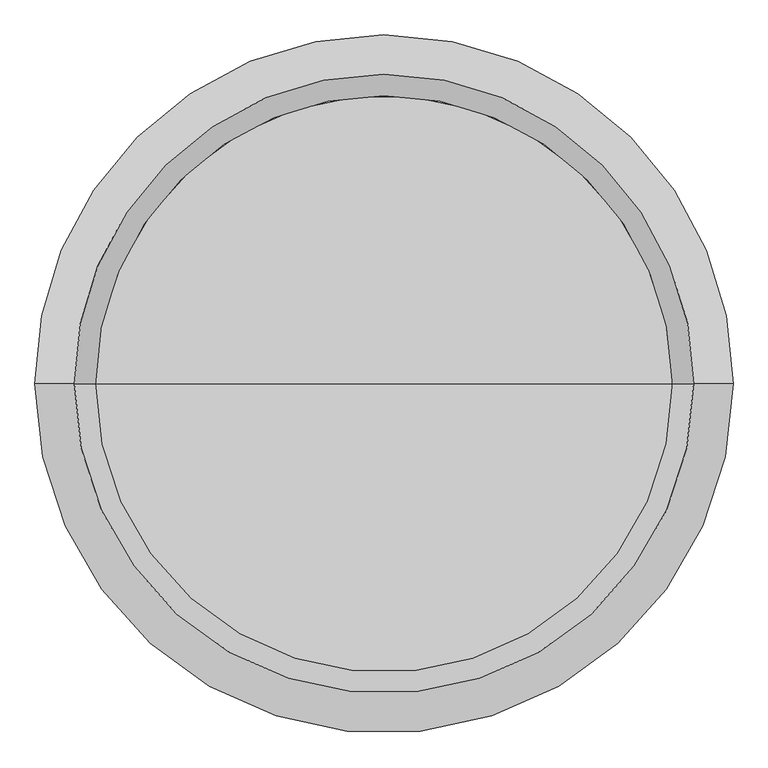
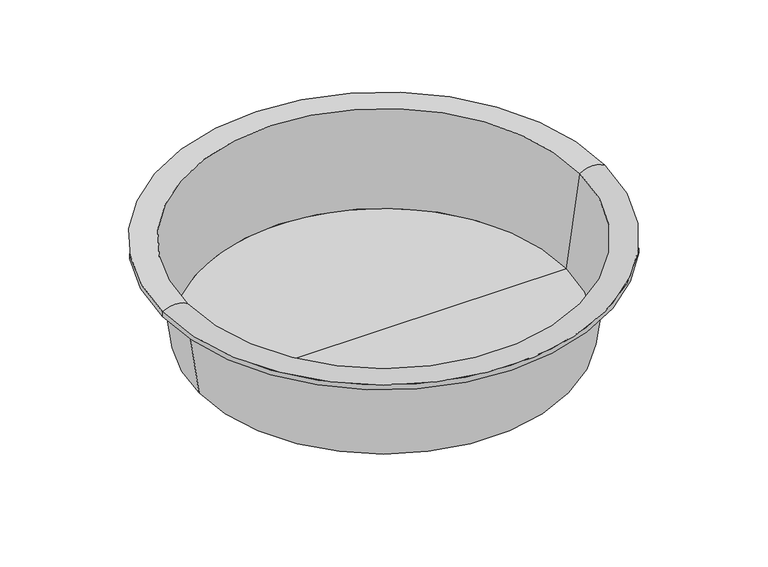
"""IFC4 building model written with IfcOpenShell, lengths in millimetres: furniture geometry, TINA1 : TINA."""

from ifc_helpers import new_model, si_unit, point, frame, origin, place, context, project, spatial, polyline, circle_curve, ellipse_curve, trimmed, source, transform, mapped, element, save
from ifc_brep_helpers import plane_surface, cylinder_surface, revolved_surface, advanced_brep


def furniture_96e056cb(model_context):
    return source(origin(), model_context, "Body", "AdvancedBrep", [
        advanced_brep(
        [(44538.6061469, 26161.7354892, 15010.0), (43795.3382521, 26161.7354892, 15010.0), (45281.8740417, 26161.7354892, 15010.0), (45290.5669091, 26161.7354892, 15000.0), (43786.6453847, 26161.7354892, 15000.0), (44538.6061469, 26161.7354892, 15000.0), (45343.9724263, 26161.7354892, 15380.0), (43733.2398675, 26161.7354892, 15380.0), (45438.6061469, 26161.7354892, 15380.0), (43638.6061469, 26161.7354892, 15380.0), (45438.6061469, 26161.7354892, 15400.2647744), (43638.6061469, 26161.7354892, 15400.2647744), (45336.7221789, 26161.7354892, 15400.2647744), (43740.490115, 26161.7354892, 15400.2647744)],
        [
            (0, 1),
            (1, 2, circle_curve(frame((44538.6061469, 26161.7354892, 15010.0), z_axis=(0.0, 0.0, 1.0), x_axis=(-1.0, 0.0, 0.0)), 743.2678948)),
            (2, 0),
            (2, 1, circle_curve(frame((44538.6061469, 26161.7354892, 15010.0), z_axis=(0.0, 0.0, 1.0), x_axis=(-1.0, 0.0, 0.0)), 743.2678948)),
            (3, 4, circle_curve(frame((44538.6061469, 26161.7354892, 15000.0), z_axis=(0.0, 0.0, -1.0), x_axis=(-1.0, 0.0, 0.0)), 751.9607622)),
            (4, 5),
            (5, 3),
            (4, 3, circle_curve(frame((44538.6061469, 26161.7354892, 15000.0), z_axis=(0.0, 0.0, -1.0), x_axis=(-1.0, 0.0, 0.0)), 751.9607622)),
            (6, 7, circle_curve(frame((44538.6061469, 26161.7354892, 15380.0), z_axis=(0.0, 0.0, -1.0), x_axis=(-1.0, 0.0, 0.0)), 805.3662794)),
            (7, 4),
            (3, 6),
            (7, 6, circle_curve(frame((44538.6061469, 26161.7354892, 15380.0), z_axis=(0.0, 0.0, -1.0), x_axis=(-1.0, 0.0, 0.0)), 805.3662794)),
            (8, 9, circle_curve(frame((44538.6061469, 26161.7354892, 15380.0), z_axis=(0.0, 0.0, -1.0), x_axis=(-1.0, 0.0, 0.0)), 900.0)),
            (9, 7),
            (6, 8),
            (9, 8, circle_curve(frame((44538.6061469, 26161.7354892, 15380.0), z_axis=(0.0, 0.0, -1.0), x_axis=(-1.0, 0.0, 0.0)), 900.0)),
            (10, 11, circle_curve(frame((44538.6061469, 26161.7354892, 15400.2647744), z_axis=(0.0, 0.0, -1.0), x_axis=(-1.0, 0.0, 0.0)), 900.0)),
            (11, 9),
            (8, 10),
            (11, 10, circle_curve(frame((44538.6061469, 26161.7354892, 15400.2647744), z_axis=(0.0, 0.0, -1.0), x_axis=(-1.0, 0.0, 0.0)), 900.0)),
            (12, 13, circle_curve(frame((44538.6061469, 26161.7354892, 15400.2647744), z_axis=(0.0, 0.0, -1.0), x_axis=(-1.0, 0.0, 0.0)), 798.116032)),
            (13, 11, circle_curve(frame((43689.5481309, 26161.7354892, 15318.990252), z_axis=(0.0, -1.0, 0.0), x_axis=(1.0, 0.0, 0.0)), 95.9199339)),
            (10, 12, circle_curve(frame((45387.6641629, 26161.7354892, 15318.990252), z_axis=(0.0, -1.0, 0.0), x_axis=(-1.0, 0.0, 0.0)), 95.9199339)),
            (13, 12, circle_curve(frame((44538.6061469, 26161.7354892, 15400.2647744), z_axis=(0.0, 0.0, -1.0), x_axis=(-1.0, 0.0, 0.0)), 798.116032)),
            (1, 13),
            (12, 2),
        ],
        [
            plane_surface(frame((44538.6061469, 26161.7354892, 15010.0), z_axis=(0.0, 0.0, 1.0), x_axis=(-1.0, 0.0, 0.0))),
            plane_surface(frame((44538.6061469, 26161.7354892, 15000.0), z_axis=(0.0, 0.0, -1.0), x_axis=(-1.0, 0.0, 0.0))),
            revolved_surface(polyline([(43786.6453847, 26161.7354892, 15000.0), (43733.2398675, 26161.7354892, 15380.0)]), (44538.6061469, 26161.7354892, 15000.0), (0.0, 0.0, 1.0)),
            plane_surface(frame((44538.6061469, 26161.7354892, 15380.0), z_axis=(0.0, 0.0, -1.0), x_axis=(-1.0, 0.0, 0.0))),
            cylinder_surface(frame((44538.6061469, 26161.7354892, 15000.0), z_axis=(0.0, 0.0, 1.0), x_axis=(-1.0, 0.0, 0.0)), 900.0),
            revolved_surface(trimmed(ellipse_curve(frame((43689.5481309, 26161.7354892, 15318.990252), z_axis=(0.0, 1.0, 0.0), x_axis=(1.0, 0.0, 0.0)), 95.9199339, 95.9199339), [point((43638.6061469, 26161.7354892, 15400.2647744))], [point((43740.490115, 26161.7354892, 15400.2647744))], True, "CARTESIAN"), (44538.6061469, 26161.7354892, 15000.0), (0.0, 0.0, 1.0)),
            revolved_surface(polyline([(43740.490115, 26161.7354892, 15400.2647744), (43795.3382521, 26161.7354892, 15010.0)]), (44538.6061469, 26161.7354892, 15000.0), (0.0, 0.0, 1.0)),
        ],
        [
            (0, [[1, 2, 3]]),
            (0, [[-3, 4, -1]]),
            (1, [[5, 6, 7]]),
            (1, [[8, -7, -6]]),
            (2, [[9, 10, -5, 11]]),
            (2, [[12, -11, -8, -10]]),
            (3, [[13, 14, -9, 15]]),
            (3, [[16, -15, -12, -14]]),
            (4, [[17, 18, -13, 19]]),
            (4, [[20, -19, -16, -18]]),
            (5, [[21, 22, -17, 23]]),
            (5, [[24, -23, -20, -22]]),
            (6, [[-2, 25, -21, 26]]),
            (6, [[-4, -26, -24, -25]]),
        ],
    ),
    ])


if __name__ == "__main__":
    model = new_model("IFC4")
    model_context = context("Model", 3, world=origin())
    ifc_project = project(units=[si_unit("LENGTHUNIT", "METRE", prefix="MILLI")], contexts=[model_context])
    site = spatial("IfcSite", under=ifc_project)
    building = spatial("IfcBuilding", under=site)
    placement = place(None, origin())
    furniture_shape = furniture_96e056cb(model_context)
    element("IfcFurniture", 1, ObjectType="TINA1 : TINA", at=placement, inside=building, context=model_context, shape_type="MappedRepresentation", body=[
        mapped(furniture_shape, transform((0.0, 0.0, 0.0), x_axis=(1.0, 0.0, 0.0), y_axis=(0.0, 1.0, 0.0), z_axis=(0.0, 0.0, 1.0))),
    ])
    save(model, "model.ifc")
